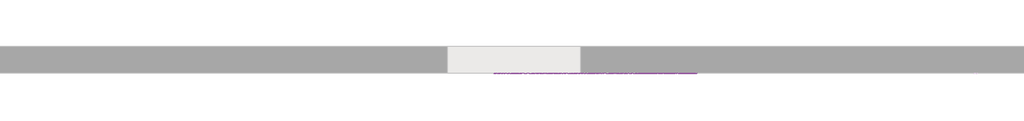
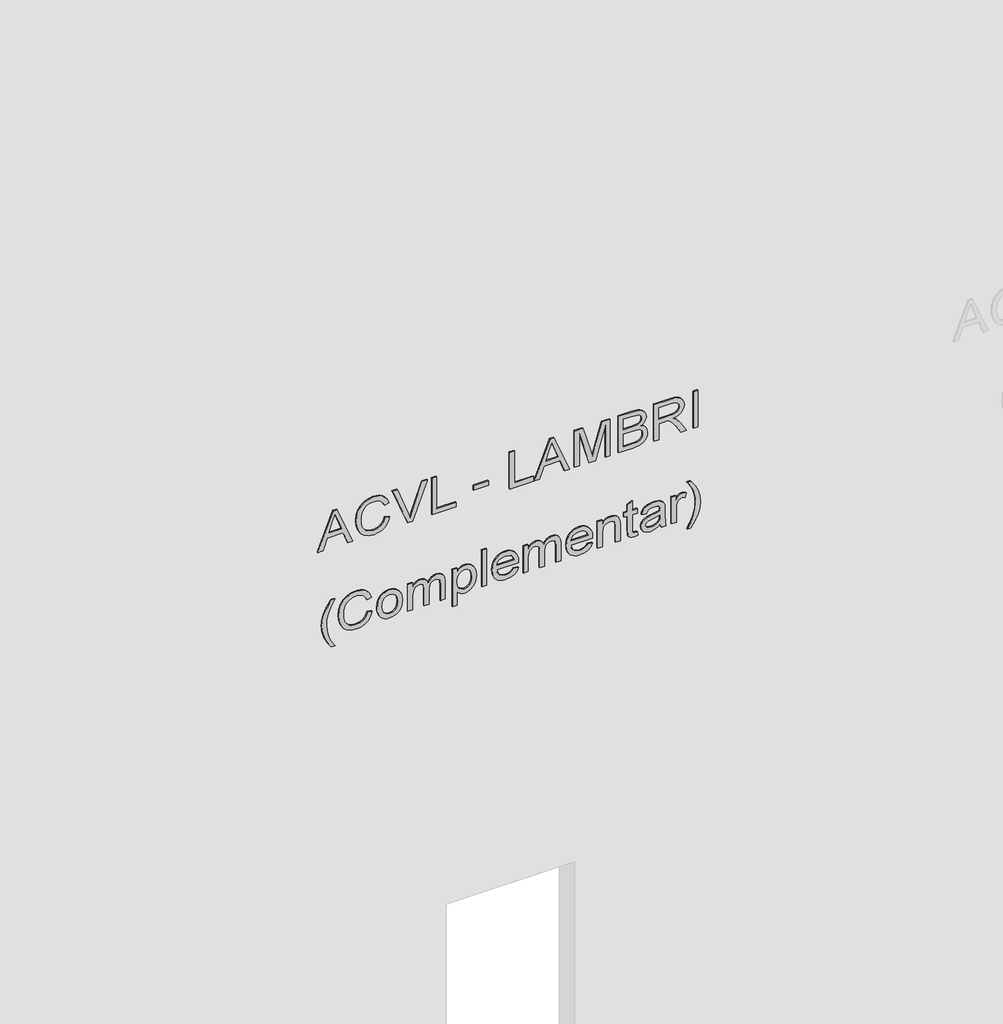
# One storey, part 3 of 11: 1 proxy.
"""IFC4 building model written with IfcOpenShell, lengths in millimetres."""

from ifc_helpers import new_model, si_unit, frame, origin, place, context, project, spatial, polyline, outline, extrude, element, save

model = new_model("IFC4")

# Units and contexts
model_context = context("Model", 3, world=origin())
ifc_project = project(units=[si_unit("LENGTHUNIT", "METRE", prefix="MILLI")], contexts=[model_context])

# Site, building, storey
site = spatial("IfcSite", under=ifc_project)
building = spatial("IfcBuilding", under=site)
storey = spatial("IfcBuildingStorey", under=building, Name="01 - Marelli - Planta Baixa - Painéis Lambri", Elevation=0.0)

# Proxy
placement = place(None, origin())
element("IfcBuildingElementProxy", 1, Name="300mm Arial", ObjectType="300mm Arial", at=placement, inside=storey, context=model_context, shape_type="SweptSolid", body=[
    extrude(outline(polyline([(5965.9244535, 7363.6853623), (5965.9244535, 7403.4901942), (6060.1022443, 7437.923949), (6060.1022443, 7562.0473341), (5965.9244535, 7596.5546653), (5965.9244535, 7636.3594972), (6267.293384, 7516.0620847), (6267.293384, 7483.9827748), (5965.9244535, 7363.6853623)]), holes=[polyline([(6097.7733606, 7451.756312), (6178.3395176, 7481.260448), (6229.6222677, 7500.0224297), (6171.8647944, 7521.1388563), (6097.7733606, 7548.2885475), (6097.7733606, 7451.756312)])]), frame((0.0, 8778.3159498, 0.0), z_axis=(0.0, 1.0, 0.0), x_axis=(0.0, 0.0, 1.0)), (0.0, 0.0, 1.0), 10.0),
    extrude(outline(polyline([(6073.0516905, 7888.5058167), (6040.7884396, 7876.3197256), (6017.5750857, 7856.5368713), (6003.5587816, 7830.3344762), (5998.8866803, 7798.8897626), (6002.3171799, 7771.9148153), (6012.6086787, 7746.9080367), (6029.8347531, 7726.0491276), (6054.0689796, 7711.5177888), (6084.1617268, 7702.9921235), (6118.9633635, 7700.1502351), (6147.3822477, 7702.5506651), (6174.9550032, 7709.7519552), (6199.3455795, 7722.8761454), (6218.2179258, 7743.0452758), (6230.3028494, 7769.6247499), (6234.3311572, 7801.9799714), (6230.6983225, 7830.0493676), (6219.7998184, 7852.8948395), (6200.9550632, 7870.7371163), (6173.4834752, 7883.7969271), (6182.4597959, 7921.4680434), (6220.278065, 7904.8305802), (6235.6003501, 7893.0284659), (6248.5314022, 7878.9040966), (6258.7999084, 7862.7241866), (6266.1345557, 7844.7554504), (6272.0022735, 7803.4514994), (6267.4681279, 7765.5964421), (6253.8656912, 7731.0523227), (6231.526057, 7701.9252658), (6200.7803193, 7680.3213956), (6162.8332915, 7666.939688), (6118.8897871, 7662.4791188), (6077.2271512, 7666.4246532), (6038.3236302, 7678.2612564), (6005.2326447, 7697.6486376), (5981.0076153, 7724.2465058), (5966.1635768, 7758.946975), (5961.215564, 7802.642159), (5962.8503396, 7825.0645666), (5967.7546665, 7845.6843524), (5975.9285445, 7864.5015165), (5987.3719739, 7881.5160587), (6001.9286046, 7896.3922869), (6019.4420868, 7908.7945087), (6039.9124206, 7918.722724), (6063.3396059, 7926.176933), (6073.0516905, 7888.5058167)])), frame((0.0, 8778.3159498, 0.0), z_axis=(0.0, 1.0, 0.0), x_axis=(0.0, 0.0, 1.0)), (0.0, 0.0, 1.0), 10.0),
    extrude(outline(polyline([(5965.9244535, 8067.0021607), (5965.9244535, 8105.9240758), (6267.293384, 8220.7768347), (6267.293384, 8180.456968), (6050.1694304, 8099.9643875), (6001.2411251, 8083.9247325), (6050.1694304, 8067.6643483), (6267.293384, 7987.392497), (6267.293384, 7947.0726303), (5965.9244535, 8067.0021607)])), frame((0.0, 8778.3159498, 0.0), z_axis=(0.0, 1.0, 0.0), x_axis=(0.0, 0.0, 1.0)), (0.0, 0.0, 1.0), 10.0),
    extrude(outline(polyline([(5965.9244535, 8255.7992006), (5965.9244535, 8444.1547822), (6003.5955698, 8444.1547822), (6003.5955698, 8293.4703169), (6267.293384, 8293.4703169), (6267.293384, 8255.7992006), (5965.9244535, 8255.7992006)])), frame((0.0, 8778.3159498, 0.0), z_axis=(0.0, 1.0, 0.0), x_axis=(0.0, 0.0, 1.0)), (0.0, 0.0, 1.0), 10.0),
    extrude(outline(polyline([(8698.4348172, 8778.3159498), (8580.7125788, 8778.3159498), (8580.7125788, 8788.3159498), (8698.4348172, 8788.3159498), (8698.4348172, 8778.3159498)])), frame((0.0, 0.0, 6055.3933548), z_axis=(0.0, 0.0, 1.0), x_axis=(1.0, 0.0, 0.0)), (0.0, 0.0, 1.0), 37.6711163),
    extrude(outline(polyline([(5965.9244535, 8863.2459511), (5965.9244535, 9051.6015326), (6003.5955698, 9051.6015326), (6003.5955698, 8900.9170674), (6267.293384, 8900.9170674), (6267.293384, 8863.2459511), (5965.9244535, 8863.2459511)])), frame((0.0, 8778.3159498, 0.0), z_axis=(0.0, 1.0, 0.0), x_axis=(0.0, 0.0, 1.0)), (0.0, 0.0, 1.0), 10.0),
    extrude(outline(polyline([(5965.9244535, 9058.8855961), (5965.9244535, 9098.690428), (6060.1022443, 9133.1241827), (6060.1022443, 9257.2475679), (5965.9244535, 9291.7548991), (5965.9244535, 9331.5597309), (6267.293384, 9211.2623185), (6267.293384, 9179.1830085), (5965.9244535, 9058.8855961)]), holes=[polyline([(6097.7733606, 9146.9565458), (6178.3395176, 9176.4606818), (6229.6222677, 9195.2226635), (6171.8647944, 9216.33909), (6097.7733606, 9243.4887813), (6097.7733606, 9146.9565458)])]), frame((0.0, 8778.3159498, 0.0), z_axis=(0.0, 1.0, 0.0), x_axis=(0.0, 0.0, 1.0)), (0.0, 0.0, 1.0), 10.0),
    extrude(outline(polyline([(5965.9244535, 9371.8060212), (5965.9244535, 9409.4771375), (6229.6222677, 9409.4771375), (5965.9244535, 9485.1872521), (5965.9244535, 9536.2492731), (6229.6222677, 9611.9593877), (5965.9244535, 9611.9593877), (5965.9244535, 9649.630504), (6267.293384, 9649.630504), (6267.293384, 9584.8096964), (6058.5571399, 9524.1827436), (6010.5117514, 9510.7182626), (6054.87832, 9498.2838512), (6267.293384, 9436.6268288), (6267.293384, 9371.8060212), (5965.9244535, 9371.8060212)])), frame((0.0, 8778.3159498, 0.0), z_axis=(0.0, 1.0, 0.0), x_axis=(0.0, 0.0, 1.0)), (0.0, 0.0, 1.0), 10.0),
    extrude(outline(polyline([(5965.9244535, 9715.5549575), (5965.9244535, 9829.6719524), (5971.1115897, 9877.9748584), (5977.5311305, 9896.0102732), (5986.4154807, 9910.7531441), (5998.6843452, 9922.7920824), (6015.2574291, 9932.7156993), (6034.7459778, 9939.3651663), (6055.7612368, 9941.5816553), (6080.9795475, 9938.3350967), (6102.6294029, 9928.5954209), (6119.5887629, 9912.8224804), (6130.7355874, 9891.4761276), (6142.4802201, 9909.3459955), (6157.407032, 9922.0471214), (6174.4675596, 9929.6346875), (6192.613339, 9932.1638763), (6212.3318139, 9929.156441), (6231.1673721, 9920.134135), (6247.1794359, 9905.8051313), (6258.4274279, 9886.8776027), (6265.076895, 9862.1835237), (6267.293384, 9830.5548692), (6267.293384, 9715.5549575), (5965.9244535, 9715.5549575)]), holes=[polyline([(6144.862256, 9753.2260738), (6229.6222677, 9753.2260738), (6229.6222677, 9816.7960826), (6225.6859303, 9865.2093531), (6220.084927, 9877.6989469), (6211.1545915, 9886.9143909), (6199.7134615, 9892.5981677), (6186.5800742, 9894.49276), (6173.0512139, 9892.4602119), (6162.0423452, 9886.3625679), (6153.6822268, 9876.25501), (6148.0996175, 9862.1927208), (6144.862256, 9822.0200069), (6144.862256, 9753.2260738)]), polyline([(6003.5955698, 9753.2260738), (6107.1911397, 9753.2260738), (6107.1911397, 9826.8024728), (6105.9311439, 9853.6302673), (6102.1511563, 9873.3395452), (6095.262566, 9887.2546817), (6084.6767616, 9896.7000519), (6071.1387042, 9902.1079173), (6055.3933548, 9903.910539), (6041.8369032, 9902.3746317), (6030.0094971, 9897.7669097), (6013.2708663, 9882.0951367), (6005.0670978, 9858.4403244), (6003.5955698, 9830.4812928), (6003.5955698, 9753.2260738)])]), frame((0.0, 8778.3159498, 0.0), z_axis=(0.0, 1.0, 0.0), x_axis=(0.0, 0.0, 1.0)), (0.0, 0.0, 1.0), 10.0),
    extrude(outline(polyline([(5965.9244535, 9993.3794403), (5965.9244535, 10031.0505566), (6097.7733606, 10031.0505566), (6097.7733606, 10076.5207712), (6096.4489854, 10098.3729617), (6089.2752865, 10116.2888148), (6069.7407526, 10136.1912308), (6028.3908163, 10164.5181444), (5965.9244535, 10203.7343651), (5965.9244535, 10247.5123225), (6047.5942565, 10197.259642), (6086.3690188, 10166.7254364), (6102.4822501, 10145.3147043), (6112.4702463, 10182.4248005), (6120.4854753, 10196.8066873), (6130.5148582, 10208.4064664), (6155.1261637, 10223.7195545), (6184.8142407, 10228.8239172), (6208.6805851, 10225.7429055), (6230.3948199, 10216.4998703), (6247.9060028, 10202.0972902), (6259.1631919, 10183.5376436), (6265.260836, 10158.1445888), (6267.293384, 10123.2417846), (6267.293384, 9993.3794403), (5965.9244535, 9993.3794403)]), holes=[polyline([(6135.4444769, 10031.0505566), (6229.6222677, 10031.0505566), (6229.6222677, 10124.8604653), (6226.366512, 10154.668104), (6216.599245, 10175.2235105), (6201.7919947, 10187.1704783), (6183.4162891, 10191.1528009), (6170.1081579, 10189.0650705), (6157.8484904, 10182.8018796), (6147.7133415, 10172.5195778), (6140.7787658, 10158.3745151), (6136.7780491, 10139.5849422), (6135.4444769, 10115.3691099), (6135.4444769, 10031.0505566)])]), frame((0.0, 8778.3159498, 0.0), z_axis=(0.0, 1.0, 0.0), x_axis=(0.0, 0.0, 1.0)), (0.0, 0.0, 1.0), 10.0),
    extrude(outline(polyline([(10337.1283766, 8778.3159498), (10299.4572602, 8778.3159498), (10299.4572602, 8788.3159498), (10337.1283766, 8788.3159498), (10337.1283766, 8778.3159498)])), frame((0.0, 0.0, 5965.9244535), z_axis=(0.0, 0.0, 1.0), x_axis=(1.0, 0.0, 0.0)), (0.0, 0.0, 1.0), 301.3689304),
    extrude(outline(polyline([(5149.3155348, 7469.4146478), (5149.3155348, 7497.667985), (5197.5540614, 7468.8260366), (5245.8109821, 7448.2246448), (5294.0862969, 7435.8638098), (5342.3800058, 7431.7435314), (5380.2534572, 7434.1163703), (5417.9429677, 7441.2348869), (5475.7740173, 7462.4248898), (5535.4444769, 7497.667985), (5535.4444769, 7469.4146478), (5484.934279, 7434.7233756), (5434.2033518, 7410.4063757), (5389.4137189, 7398.1559053), (5342.600735, 7394.0724151), (5289.2210575, 7399.5354628), (5237.68079, 7415.9246057), (5190.2791949, 7440.2232114), (5149.3155348, 7469.4146478)])), frame((0.0, 8778.3159498, 0.0), z_axis=(0.0, 1.0, 0.0), x_axis=(0.0, 0.0, 1.0)), (0.0, 0.0, 1.0), 10.0),
    extrude(outline(polyline([(5341.2027835, 7751.94802), (5308.9395325, 7739.761929), (5285.7261786, 7719.9790747), (5271.7098746, 7693.7766796), (5267.0377732, 7662.331966), (5270.4682728, 7635.3570187), (5280.7597717, 7610.3502401), (5297.9858461, 7589.491331), (5322.2200725, 7574.9599922), (5352.3128197, 7566.4343269), (5387.1144565, 7563.5924385), (5415.5333406, 7565.9928685), (5443.1060961, 7573.1941586), (5467.4966724, 7586.3183488), (5486.3690188, 7606.4874792), (5498.4539423, 7633.0669533), (5502.4822501, 7665.4221748), (5498.8494154, 7693.491571), (5487.9509113, 7716.3370429), (5469.1061561, 7734.1793197), (5441.6345681, 7747.2391305), (5450.6108888, 7784.9102468), (5488.4291579, 7768.2727836), (5503.751443, 7756.4706693), (5516.6824952, 7742.3463), (5526.9510013, 7726.16639), (5534.2856486, 7708.1976538), (5540.1533665, 7666.8937028), (5535.6192209, 7629.0386455), (5522.0167841, 7594.4945261), (5499.6771499, 7565.3674691), (5468.9314122, 7543.763599), (5430.9843844, 7530.3818914), (5387.0408801, 7525.9213222), (5345.3782441, 7529.8668566), (5306.4747231, 7541.7034598), (5273.3837376, 7561.0908409), (5249.1587083, 7587.6887092), (5234.3146698, 7622.3891784), (5229.3666569, 7666.0843624), (5231.0014325, 7688.50677), (5235.9057594, 7709.1265558), (5244.0796375, 7727.9437199), (5255.5230668, 7744.9582621), (5270.0796975, 7759.8344903), (5287.5931797, 7772.2367121), (5308.0635135, 7782.1649274), (5331.4906988, 7789.6191364), (5341.2027835, 7751.94802)])), frame((0.0, 8778.3159498, 0.0), z_axis=(0.0, 1.0, 0.0), x_axis=(0.0, 0.0, 1.0)), (0.0, 0.0, 1.0), 10.0),
    extrude(outline(polyline([(5344.7344506, 7827.2902527), (5318.4124939, 7828.9986047), (5295.3646869, 7834.1236607), (5275.5910296, 7842.6654208), (5259.0915221, 7854.6238849), (5246.0868936, 7869.350661), (5236.7978732, 7886.1973571), (5231.224461, 7905.1639733), (5229.3666569, 7926.2505094), (5232.7419742, 7952.8391806), (5242.8679261, 7977.2757421), (5259.1007192, 7997.8495427), (5280.7965599, 8012.849931), (5309.767267, 8022.0101927), (5347.8246594, 8025.0636133), (5372.7049786, 8023.3368672), (5394.7388108, 8018.1566288), (5413.9261561, 8009.5228982), (5430.2670145, 7997.4356754), (5443.3199275, 7982.6261259), (5452.6434368, 7965.825415), (5458.2375424, 7947.0335428), (5460.1022443, 7926.2505094), (5458.5709355, 7907.4241483), (5453.9770091, 7890.0877092), (5446.3204651, 7874.2411923), (5435.6013034, 7859.8845974), (5418.830483, 7845.6245716), (5398.095734, 7835.4388389), (5373.3970566, 7829.3273992), (5344.7344506, 7827.2902527)]), holes=[polyline([(5344.808027, 7864.961369), (5378.8830968, 7869.3207706), (5403.1173232, 7882.3989755), (5417.6026768, 7902.0806623), (5422.431128, 7926.2505094), (5417.5842827, 7950.1720361), (5403.0437468, 7969.8445258), (5379.0854319, 7983.0055042), (5345.9852494, 7987.392497), (5311.1468245, 7983.0330953), (5286.535519, 7969.9548904), (5271.9122097, 7950.3099918), (5267.0377732, 7926.2505094), (5271.8846185, 7902.0806623), (5286.4251544, 7882.3989755), (5310.7145631, 7869.3207706), (5344.808027, 7864.961369)])]), frame((0.0, 8778.3159498, 0.0), z_axis=(0.0, 1.0, 0.0), x_axis=(0.0, 0.0, 1.0)), (0.0, 0.0, 1.0), 10.0),
    extrude(outline(polyline([(5234.0755465, 8067.4436191), (5234.0755465, 8105.1147354), (5345.6909438, 8105.1147354), (5371.6082304, 8106.5494752), (5390.6461236, 8110.8536945), (5404.368122, 8118.3584872), (5414.3377241, 8129.3949471), (5420.407777, 8142.7674576), (5422.431128, 8157.2804023), (5419.3961015, 8174.359324), (5410.2910222, 8185.8648334), (5395.0974958, 8192.4039358), (5373.7971282, 8194.5836366), (5234.0755465, 8194.5836366), (5234.0755465, 8232.2547529), (5359.008272, 8232.2547529), (5387.7214617, 8235.94277), (5407.3479662, 8247.006821), (5418.6603375, 8263.6442842), (5422.431128, 8284.0525379), (5420.9596, 8295.6132296), (5416.5450161, 8305.5736346), (5409.7300021, 8313.3175506), (5401.0571841, 8318.2287752), (5369.6032735, 8321.7236542), (5234.0755465, 8321.7236542), (5234.0755465, 8359.3947705), (5385.7900813, 8359.3947705), (5418.7615051, 8355.0813541), (5441.8920855, 8342.1411049), (5455.5497046, 8321.1994223), (5460.1022443, 8292.8817058), (5457.366122, 8273.3563689), (5449.1577549, 8255.7624124), (5435.4771432, 8240.0998365), (5416.3242869, 8226.368641), (5434.7643719, 8218.1648725), (5448.5875379, 8205.6200965), (5457.2235677, 8188.8262834), (5460.1022443, 8167.8754038), (5457.27875, 8148.3224757), (5448.808267, 8131.0136279), (5435.702471, 8116.4455009), (5418.9730372, 8105.1147354), (5455.3933548, 8105.1147354), (5455.3933548, 8067.4436191), (5234.0755465, 8067.4436191)])), frame((0.0, 8778.3159498, 0.0), z_axis=(0.0, 1.0, 0.0), x_axis=(0.0, 0.0, 1.0)), (0.0, 0.0, 1.0), 10.0),
    extrude(outline(polyline([(5149.3155348, 8415.9014449), (5149.3155348, 8453.5725612), (5263.5061061, 8453.5725612), (5249.9956398, 8464.213548), (5239.0419534, 8477.4481027), (5231.785481, 8492.9083436), (5229.3666569, 8510.2263885), (5232.9810975, 8534.6445559), (5243.8244193, 8557.8671069), (5261.4459669, 8577.806311), (5285.3950848, 8592.374438), (5314.2094421, 8601.2863794), (5346.4267078, 8604.2570265), (5376.7217901, 8601.6266702), (5404.4784866, 8593.7356014), (5427.9861461, 8580.6757906), (5445.5341173, 8562.5392082), (5456.4602125, 8540.2639534), (5460.1022443, 8514.7881252), (5457.4994792, 8495.6582615), (5449.6911838, 8479.6186065), (5436.6773583, 8465.8598199), (5418.4580024, 8453.5725612), (5455.3933548, 8453.5725612), (5455.3933548, 8415.9014449), (5149.3155348, 8415.9014449)]), holes=[polyline([(5342.968617, 8453.5725612), (5377.1356573, 8457.9227658), (5402.0872537, 8470.9733796), (5417.3451594, 8489.670982), (5422.431128, 8510.9621525), (5417.6486621, 8532.1705495), (5403.3012642, 8550.1783732), (5379.3521464, 8562.4840259), (5345.7645202, 8566.5859102), (5310.7237602, 8562.3828584), (5286.2412134, 8549.773703), (5271.8386333, 8531.2784357), (5267.0377732, 8509.4170481), (5271.6730864, 8487.9051484), (5285.5790258, 8469.8697336), (5309.1970499, 8457.6468543), (5342.968617, 8453.5725612)])]), frame((0.0, 8778.3159498, 0.0), z_axis=(0.0, 1.0, 0.0), x_axis=(0.0, 0.0, 1.0)), (0.0, 0.0, 1.0), 10.0),
    extrude(outline(polyline([(8684.3081486, 8778.3159498), (8646.6370323, 8778.3159498), (8646.6370323, 8788.3159498), (8684.3081486, 8788.3159498), (8684.3081486, 8778.3159498)])), frame((0.0, 0.0, 5234.0755465), z_axis=(0.0, 0.0, 1.0), x_axis=(1.0, 0.0, 0.0)), (0.0, 0.0, 1.0), 301.3689304),
    extrude(outline(polyline([(5300.0, 8895.7667195), (5285.1191733, 8885.2085062), (5274.9104479, 8871.4865078), (5269.0059419, 8854.6007242), (5267.0377732, 8834.5511555), (5271.2868103, 8807.8889079), (5284.0339214, 8786.0275203), (5304.7640718, 8770.8799791), (5332.9622268, 8764.3592708), (5332.9622268, 8933.658565), (5343.1157698, 8933.8792942), (5369.3687487, 8932.0927672), (5392.5039277, 8926.7331864), (5412.5213067, 8917.8005517), (5429.4208859, 8905.2948631), (5442.8439802, 8889.9748773), (5452.4319047, 8872.5993508), (5458.1846594, 8853.1682837), (5460.1022443, 8831.6816759), (5458.1800609, 8809.4799975), (5452.4135106, 8789.4488228), (5442.8025935, 8771.588152), (5429.3473095, 8755.8979849), (5412.4109422, 8743.1186841), (5392.3567749, 8733.9906121), (5369.1848077, 8728.5137689), (5342.8950406, 8726.6881545), (5317.467497, 8728.4953748), (5295.0427901, 8733.9170357), (5275.62092, 8742.9531372), (5259.2018867, 8755.6036793), (5246.1489737, 8771.3352331), (5236.8254644, 8789.6143697), (5231.2313588, 8810.4410892), (5229.3666569, 8833.8153915), (5233.6892704, 8869.4723538), (5246.6571107, 8898.1579524), (5267.4608375, 8919.3939406), (5295.2911105, 8932.7020718), (5300.0, 8895.7667195)]), holes=[polyline([(5370.6333431, 8764.3592708), (5391.8693312, 8770.5488853), (5408.3412476, 8785.1446035), (5418.9086579, 8806.1414684), (5422.431128, 8831.5345231), (5418.0165441, 8859.1624609), (5404.7727922, 8881.125016), (5390.535759, 8891.1130122), (5370.6333431, 8896.2081778), (5370.6333431, 8764.3592708)])]), frame((0.0, 8778.3159498, 0.0), z_axis=(0.0, 1.0, 0.0), x_axis=(0.0, 0.0, 1.0)), (0.0, 0.0, 1.0), 10.0),
    extrude(outline(polyline([(5234.0755465, 8971.5504105), (5234.0755465, 9009.2215268), (5345.6909438, 9009.2215268), (5371.6082304, 9010.6562665), (5390.6461236, 9014.9604859), (5404.368122, 9022.4652786), (5414.3377241, 9033.5017384), (5420.407777, 9046.874249), (5422.431128, 9061.3871937), (5419.3961015, 9078.4661153), (5410.2910222, 9089.9716247), (5395.0974958, 9096.5107272), (5373.7971282, 9098.690428), (5234.0755465, 9098.690428), (5234.0755465, 9136.3615443), (5359.008272, 9136.3615443), (5387.7214617, 9140.0495613), (5407.3479662, 9151.1136123), (5418.6603375, 9167.7510755), (5422.431128, 9188.1593292), (5420.9596, 9199.7200209), (5416.5450161, 9209.6804259), (5409.7300021, 9217.4243419), (5401.0571841, 9222.3355666), (5369.6032735, 9225.8304455), (5234.0755465, 9225.8304455), (5234.0755465, 9263.5015618), (5385.7900813, 9263.5015618), (5418.7615051, 9259.1881454), (5441.8920855, 9246.2478963), (5455.5497046, 9225.3062137), (5460.1022443, 9196.9884971), (5457.366122, 9177.4631602), (5449.1577549, 9159.8692038), (5435.4771432, 9144.2066278), (5416.3242869, 9130.4754324), (5434.7643719, 9122.2716639), (5448.5875379, 9109.7268878), (5457.2235677, 9092.9330748), (5460.1022443, 9071.9821951), (5457.27875, 9052.4292671), (5448.808267, 9035.1204192), (5435.702471, 9020.5522922), (5418.9730372, 9009.2215268), (5455.3933548, 9009.2215268), (5455.3933548, 8971.5504105), (5234.0755465, 8971.5504105)])), frame((0.0, 8778.3159498, 0.0), z_axis=(0.0, 1.0, 0.0), x_axis=(0.0, 0.0, 1.0)), (0.0, 0.0, 1.0), 10.0),
    extrude(outline(polyline([(5300.0, 9474.9601327), (5285.1191733, 9464.4019194), (5274.9104479, 9450.679921), (5269.0059419, 9433.7941374), (5267.0377732, 9413.7445687), (5271.2868103, 9387.0823211), (5284.0339214, 9365.2209335), (5304.7640718, 9350.0733923), (5332.9622268, 9343.552684), (5332.9622268, 9512.8519782), (5343.1157698, 9513.0727074), (5369.3687487, 9511.2861804), (5392.5039277, 9505.9265996), (5412.5213067, 9496.9939649), (5429.4208859, 9484.4882763), (5442.8439802, 9469.1682905), (5452.4319047, 9451.792764), (5458.1846594, 9432.3616969), (5460.1022443, 9410.8750891), (5458.1800609, 9388.6734107), (5452.4135106, 9368.6422361), (5442.8025935, 9350.7815652), (5429.3473095, 9335.0913981), (5412.4109422, 9322.3120973), (5392.3567749, 9313.1840253), (5369.1848077, 9307.7071821), (5342.8950406, 9305.8815677), (5317.467497, 9307.688788), (5295.0427901, 9313.1104489), (5275.62092, 9322.1465504), (5259.2018867, 9334.7970925), (5246.1489737, 9350.5286463), (5236.8254644, 9368.8077829), (5231.2313588, 9389.6345024), (5229.3666569, 9413.0088047), (5233.6892704, 9448.6657671), (5246.6571107, 9477.3513656), (5267.4608375, 9498.5873538), (5295.2911105, 9511.895485), (5300.0, 9474.9601327)]), holes=[polyline([(5370.6333431, 9343.552684), (5391.8693312, 9349.7422985), (5408.3412476, 9364.3380167), (5418.9086579, 9385.3348816), (5422.431128, 9410.7279363), (5418.0165441, 9438.3558741), (5404.7727922, 9460.3184292), (5390.535759, 9470.3064254), (5370.6333431, 9475.4015911), (5370.6333431, 9343.552684)])]), frame((0.0, 8778.3159498, 0.0), z_axis=(0.0, 1.0, 0.0), x_axis=(0.0, 0.0, 1.0)), (0.0, 0.0, 1.0), 10.0),
    extrude(outline(polyline([(5234.0755465, 9550.7438237), (5234.0755465, 9588.41494), (5351.5034793, 9588.41494), (5386.2131456, 9592.7099623), (5398.5877762, 9598.0787401), (5407.6422718, 9605.5950291), (5418.7339139, 9624.4029961), (5422.431128, 9646.4667188), (5420.7848561, 9660.3634612), (5415.8460403, 9672.3288231), (5408.1481095, 9681.6638287), (5398.2244927, 9687.6695023), (5364.8943839, 9692.0105098), (5234.0755465, 9692.0105098), (5234.0755465, 9729.6816261), (5369.9711555, 9729.6816261), (5406.391473, 9727.6950633), (5434.0929872, 9716.4010861), (5444.6328064, 9706.3027253), (5452.9285454, 9692.1208744), (5458.3088196, 9675.1155292), (5460.1022443, 9656.5466855), (5457.8765582, 9635.5682147), (5451.1995, 9617.2201002), (5440.0710697, 9601.5023419), (5424.4912672, 9588.41494), (5455.3933548, 9588.41494), (5455.3933548, 9550.7438237), (5234.0755465, 9550.7438237)])), frame((0.0, 8778.3159498, 0.0), z_axis=(0.0, 1.0, 0.0), x_axis=(0.0, 0.0, 1.0)), (0.0, 0.0, 1.0), 10.0),
    extrude(outline(polyline([(5265.4926689, 9861.5305332), (5267.0377732, 9845.1229962), (5269.576159, 9832.2839146), (5276.4555523, 9825.8459797), (5295.8797217, 9823.8594169), (5417.7222385, 9823.8594169), (5417.7222385, 9861.5305332), (5455.3933548, 9861.5305332), (5455.3933548, 9823.8594169), (5531.3241986, 9823.8594169), (5509.1777025, 9786.1883006), (5455.3933548, 9786.1883006), (5455.3933548, 9757.9349633), (5417.7222385, 9757.9349633), (5417.7222385, 9786.1883006), (5294.7760757, 9786.1883006), (5267.7919313, 9787.3287348), (5252.0281878, 9790.7500373), (5242.849532, 9796.967243), (5235.6206508, 9806.4953867), (5230.9301554, 9819.9782618), (5229.3666569, 9838.0596619), (5232.9719005, 9866.2394227), (5265.4926689, 9861.5305332)])), frame((0.0, 8778.3159498, 0.0), z_axis=(0.0, 1.0, 0.0), x_axis=(0.0, 0.0, 1.0)), (0.0, 0.0, 1.0), 10.0),
    extrude(outline(polyline([(5262.3288837, 10040.4683356), (5234.0755465, 10049.8861147), (5234.0755465, 10087.557231), (5265.7501862, 10080.0524383), (5331.1963932, 10078.1394519), (5378.0645594, 10078.1394519), (5411.0267861, 10076.300042), (5425.1442577, 10071.7566993), (5436.5945848, 10064.7485473), (5445.856014, 10054.181137), (5453.406792, 10038.9600195), (5458.4283812, 10018.772495), (5460.1022443, 9993.3058639), (5458.207652, 9966.7539809), (5452.5238752, 9943.6050063), (5443.3452194, 9924.6774777), (5430.9659903, 9910.7899323), (5414.7791825, 9901.0318624), (5394.1777908, 9894.49276), (5389.4689012, 9932.1638763), (5405.1314772, 9939.6502749), (5415.1838527, 9950.3372468), (5420.6193092, 9966.0090198), (5422.431128, 9988.4498215), (5419.7088012, 10012.693245), (5411.5418209, 10030.0940634), (5400.5421493, 10037.8747676), (5383.7299421, 10040.4683356), (5375.3422326, 10040.2476064), (5368.3524747, 10013.429009), (5362.3927864, 9974.9117641), (5356.7274037, 9942.3174193), (5344.3665686, 9915.9402803), (5334.8752131, 9905.3360818), (5322.7351073, 9896.9943575), (5308.5532564, 9891.5864922), (5292.9366657, 9889.7838704), (5267.6079903, 9894.5571393), (5247.2457219, 9908.876946), (5233.8364232, 9932.0994969), (5229.3666569, 9963.5809987), (5231.224461, 9984.4491048), (5236.7978732, 10003.9376535), (5246.896234, 10022.469709), (5262.3288837, 10040.4683356)]), holes=[polyline([(5337.6711163, 10040.4683356), (5327.0025384, 10040.2476064), (5310.0799667, 10038.7576844), (5297.8662844, 10034.2879181), (5286.0112871, 10024.2079515), (5276.0508821, 10009.7134008), (5269.2910505, 9991.8343359), (5267.0377732, 9971.6008261), (5269.0795183, 9952.5169476), (5275.2047535, 9938.6753876), (5284.3834093, 9930.2600869), (5295.5854161, 9927.4549867), (5310.0799667, 9932.6053347), (5320.0127805, 9947.2838263), (5326.1196217, 9979.69423), (5337.6711163, 10040.4683356)])]), frame((0.0, 8778.3159498, 0.0), z_axis=(0.0, 1.0, 0.0), x_axis=(0.0, 0.0, 1.0)), (0.0, 0.0, 1.0), 10.0),
    extrude(outline(polyline([(5234.0755465, 10129.9372369), (5234.0755465, 10167.6083532), (5350.3998333, 10167.6083532), (5373.3556698, 10169.1350635), (5394.39852, 10173.7151943), (5406.1339556, 10179.1690449), (5414.9999117, 10187.2900399), (5420.5733239, 10197.3424154), (5422.431128, 10208.5904074), (5420.4997475, 10221.8341593), (5414.7056061, 10235.0779111), (5448.4771733, 10247.6594753), (5457.1959765, 10228.603188), (5460.1022443, 10209.8412062), (5458.2812284, 10197.5539476), (5452.8181808, 10186.2967585), (5441.6345681, 10175.0763577), (5422.6518572, 10162.8994636), (5455.3933548, 10162.8994636), (5455.3933548, 10129.9372369), (5234.0755465, 10129.9372369)])), frame((0.0, 8778.3159498, 0.0), z_axis=(0.0, 1.0, 0.0), x_axis=(0.0, 0.0, 1.0)), (0.0, 0.0, 1.0), 10.0),
    extrude(outline(polyline([(5149.3155348, 10280.6217021), (5190.2791949, 10309.6751827), (5237.68079, 10334.0013796), (5289.2210575, 10350.4732959), (5342.600735, 10355.9639347), (5389.4137189, 10351.8804446), (5434.2033518, 10339.6299741), (5484.934279, 10315.3129742), (5535.4444769, 10280.6217021), (5535.4444769, 10252.3683649), (5475.1854061, 10287.8321892), (5446.8400984, 10299.8067481), (5417.2807801, 10308.8014629), (5379.9775458, 10315.9199795), (5342.3800058, 10318.2928184), (5294.0862969, 10314.1725401), (5245.8109821, 10301.811705), (5197.5540614, 10281.2103133), (5149.3155348, 10252.3683649), (5149.3155348, 10280.6217021)])), frame((0.0, 8778.3159498, 0.0), z_axis=(0.0, 1.0, 0.0), x_axis=(0.0, 0.0, 1.0)), (0.0, 0.0, 1.0), 10.0),
])

save(model, "model.ifc")
